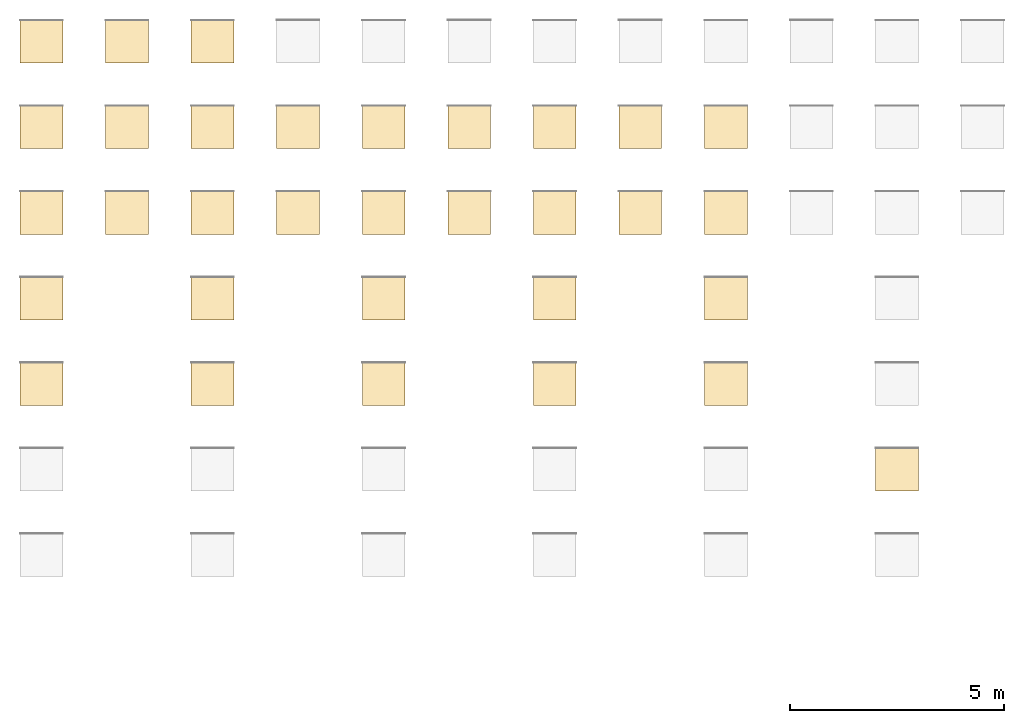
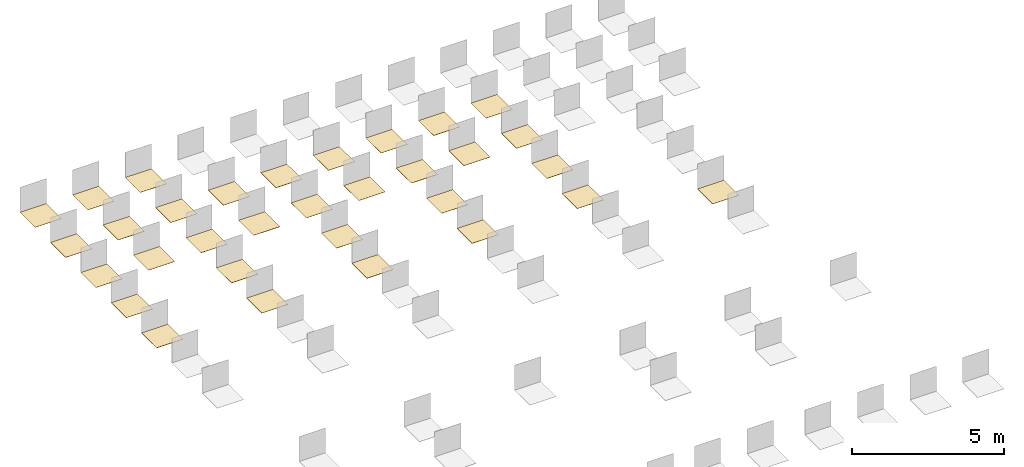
# One storey, part 5 of 6: 32 coverings.
"""IFC2X3 building model written with IfcOpenShell, lengths in millimetres."""

from ifc_helpers import new_model, entity, si_unit, converted_unit, derived_unit, direction, frame, frame_2d, origin, origin_2d_with_axis, place, context, subcontext, project, spatial, rectangle, extrude, material, layer, layer_set, layer_usage, type_object, element, save


model = new_model("IFC2X3")

# Units and contexts
model_context = context("Model", 3, precision=0.01, world=origin(), true_north=direction((6.12303176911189e-17, 1.0)))
body_context = subcontext(model_context, "Body", "Model", "MODEL_VIEW")
ifc_project = project(units=[si_unit("LENGTHUNIT", "METRE", prefix="MILLI"), si_unit("AREAUNIT", "SQUARE_METRE"), si_unit("VOLUMEUNIT", "CUBIC_METRE"), converted_unit("PLANEANGLEUNIT", "DEGREE", entity("IfcRatioMeasure", 0.0174532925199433), si_unit("PLANEANGLEUNIT", "RADIAN"), dimensions=[0, 0, 0, 0, 0, 0, 0]), si_unit("MASSUNIT", "GRAM", prefix="KILO"), derived_unit("MASSDENSITYUNIT", [(si_unit("MASSUNIT", "GRAM", prefix="KILO"), 1), (si_unit("LENGTHUNIT", "METRE"), -3)]), derived_unit("MOMENTOFINERTIAUNIT", [(si_unit("LENGTHUNIT", "METRE"), 4)]), si_unit("TIMEUNIT", "SECOND"), si_unit("FREQUENCYUNIT", "HERTZ"), si_unit("THERMODYNAMICTEMPERATUREUNIT", "DEGREE_CELSIUS"), derived_unit("THERMALTRANSMITTANCEUNIT", [(si_unit("MASSUNIT", "GRAM", prefix="KILO"), 1), (si_unit("THERMODYNAMICTEMPERATUREUNIT", "KELVIN"), -1), (si_unit("TIMEUNIT", "SECOND"), -3)]), derived_unit("VOLUMETRICFLOWRATEUNIT", [(si_unit("LENGTHUNIT", "METRE"), 3), (si_unit("TIMEUNIT", "SECOND"), -1)]), si_unit("ELECTRICCURRENTUNIT", "AMPERE"), si_unit("ELECTRICVOLTAGEUNIT", "VOLT"), si_unit("POWERUNIT", "WATT"), si_unit("FORCEUNIT", "NEWTON", prefix="KILO"), si_unit("ILLUMINANCEUNIT", "LUX"), si_unit("LUMINOUSFLUXUNIT", "LUMEN"), si_unit("LUMINOUSINTENSITYUNIT", "CANDELA"), derived_unit("USERDEFINED", [(si_unit("MASSUNIT", "GRAM", prefix="KILO"), -1), (si_unit("LENGTHUNIT", "METRE"), -2), (si_unit("TIMEUNIT", "SECOND"), 3), (si_unit("LUMINOUSFLUXUNIT", "LUMEN"), 1)]), derived_unit("LINEARVELOCITYUNIT", [(si_unit("LENGTHUNIT", "METRE"), 1), (si_unit("TIMEUNIT", "SECOND"), -1)]), si_unit("PRESSUREUNIT", "PASCAL"), derived_unit("USERDEFINED", [(si_unit("LENGTHUNIT", "METRE"), -2), (si_unit("MASSUNIT", "GRAM", prefix="KILO"), 1), (si_unit("TIMEUNIT", "SECOND"), -2)]), derived_unit("LINEARFORCEUNIT", [(si_unit("MASSUNIT", "GRAM", prefix="KILO"), 1), (si_unit("LENGTHUNIT", "METRE"), 1), (si_unit("TIMEUNIT", "SECOND"), -2), (si_unit("LENGTHUNIT", "METRE"), -1)]), derived_unit("PLANARFORCEUNIT", [(si_unit("MASSUNIT", "GRAM", prefix="KILO"), 1), (si_unit("LENGTHUNIT", "METRE"), 1), (si_unit("TIMEUNIT", "SECOND"), -2), (si_unit("LENGTHUNIT", "METRE"), -2)])], contexts=[model_context])

# Site, building, storey
site_placement = place(None, origin())
site = spatial("IfcSite", under=ifc_project, at=site_placement, Name="Default", CompositionType="ELEMENT")
building_placement = place(site_placement, origin())
building = spatial("IfcBuilding", under=site, at=building_placement, CompositionType="ELEMENT")
storey_placement = place(building_placement, origin())
storey = spatial("IfcBuildingStorey", under=building, at=storey_placement, Name="Level 1", CompositionType="ELEMENT", Elevation=0.0)

# Coverings
ifc_material_1 = material(Name="REVIGRÉS-URBAN-BASE-30X30-RECT-ANTRACITE")
ifc_layer_1 = layer(ifc_material_1, 7.7)
ifc_layer_set_1 = layer_set([ifc_layer_1], Name="Floor:REVIGRÉS-URBAN-BASE-29,5X29,5-RECT-ANTRACITE")
ifc_layer_usage_1 = layer_usage(ifc_layer_set_1, "AXIS3", "POSITIVE", 0.0)
covering_type_1 = type_object("IfcCoveringType", Name="Floor:REVIGRÉS-URBAN-BASE-29,5X29,5-RECT-ANTRACITE", PredefinedType="CLADDING", material=ifc_layer_set_1)
covering_1_placement = place(storey_placement, origin())
element("IfcCovering", 1, at=covering_1_placement, inside=storey, type_object=covering_type_1, material=ifc_layer_usage_1, Name="Floor:REVIGRÉS-URBAN-BASE-29,5X29,5-RECT-ANTRACITE", ObjectType="Floor:REVIGRÉS-URBAN-BASE-29,5X29,5-RECT-ANTRACITE", PredefinedType="CLADDING", context=body_context, shape_type="SweptSolid", body=[
    extrude(rectangle(XDim=1000.0, YDim=1000.0, at=frame_2d((-1.4210854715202e-13, 0.0), x_axis=(1.0, 0.0))), frame((3278.64271399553, -1691.92420263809, 0.0), z_axis=(0.0, 0.0, -1.0), x_axis=(0.0, 1.0, 0.0)), (0.0, 0.0, 1.0), 7.7),
])
ifc_material_2 = material(Name="REVIGRÉS-URBAN-BASE-30X30-NAT-ANTRACITE")
ifc_layer_2 = layer(ifc_material_2, 8.5)
ifc_layer_set_2 = layer_set([ifc_layer_2], Name="Floor:REVIGRÉS-URBAN-BASE-30X30-NAT-ANTRACITE")
ifc_layer_usage_2 = layer_usage(ifc_layer_set_2, "AXIS3", "POSITIVE", 0.0)
covering_type_2 = type_object("IfcCoveringType", Name="Floor:REVIGRÉS-URBAN-BASE-30X30-NAT-ANTRACITE", PredefinedType="CLADDING", material=ifc_layer_set_2)
covering_2_placement = place(storey_placement, origin())
element("IfcCovering", 2, at=covering_2_placement, inside=storey, type_object=covering_type_2, material=ifc_layer_usage_2, Name="Floor:REVIGRÉS-URBAN-BASE-30X30-NAT-ANTRACITE", ObjectType="Floor:REVIGRÉS-URBAN-BASE-30X30-NAT-ANTRACITE", PredefinedType="CLADDING", context=body_context, shape_type="SweptSolid", body=[
    extrude(rectangle(XDim=1000.0, YDim=1000.0, at=frame_2d((-1.4210854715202e-13, 5.40012479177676e-13), x_axis=(1.0, 0.0))), frame((5278.64271399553, -1691.9242026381, 0.0), z_axis=(0.0, 0.0, -1.0), x_axis=(0.0, 1.0, 0.0)), (0.0, 0.0, 1.0), 8.5),
])
ifc_material_3 = material(Name="REVIGRÉS-URBAN-BASE-30X30-RECT-BONE")
ifc_layer_3 = layer(ifc_material_3, 7.7)
ifc_layer_set_3 = layer_set([ifc_layer_3], Name="Floor:REVIGRÉS-URBAN-BASE-29,5X29,5-RECT-BONE")
ifc_layer_usage_3 = layer_usage(ifc_layer_set_3, "AXIS3", "POSITIVE", 0.0)
covering_type_3 = type_object("IfcCoveringType", Name="Floor:REVIGRÉS-URBAN-BASE-29,5X29,5-RECT-BONE", PredefinedType="CLADDING", material=ifc_layer_set_3)
covering_3_placement = place(storey_placement, origin())
element("IfcCovering", 3, at=covering_3_placement, inside=storey, type_object=covering_type_3, material=ifc_layer_usage_3, Name="Floor:REVIGRÉS-URBAN-BASE-29,5X29,5-RECT-BONE", ObjectType="Floor:REVIGRÉS-URBAN-BASE-29,5X29,5-RECT-BONE", PredefinedType="CLADDING", context=body_context, shape_type="SweptSolid", body=[
    extrude(rectangle(XDim=1000.0, YDim=1000.0, at=frame_2d((-1.4210854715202e-13, -1.08002495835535e-12), x_axis=(1.0, 0.0))), frame((7278.64271399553, -1691.92420263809, 0.0), z_axis=(0.0, 0.0, -1.0), x_axis=(0.0, 1.0, 0.0)), (0.0, 0.0, 1.0), 7.7),
])
ifc_material_4 = material(Name="REVIGRÉS-URBAN-BASE-30X60-RECT-ANTRACITE")
ifc_layer_4 = layer(ifc_material_4, 8.5)
ifc_layer_set_4 = layer_set([ifc_layer_4], Name="Floor:REVIGRÉS-URBAN-BASE-29,5X59,2-RECT-ANTRACITE")
ifc_layer_usage_4 = layer_usage(ifc_layer_set_4, "AXIS3", "POSITIVE", 0.0)
covering_type_4 = type_object("IfcCoveringType", Name="Floor:REVIGRÉS-URBAN-BASE-29,5X59,2-RECT-ANTRACITE", PredefinedType="CLADDING", material=ifc_layer_set_4)
covering_4_placement = place(storey_placement, origin())
element("IfcCovering", 4, at=covering_4_placement, inside=storey, type_object=covering_type_4, material=ifc_layer_usage_4, Name="Floor:REVIGRÉS-URBAN-BASE-29,5X59,2-RECT-ANTRACITE", ObjectType="Floor:REVIGRÉS-URBAN-BASE-29,5X59,2-RECT-ANTRACITE", PredefinedType="CLADDING", context=body_context, shape_type="SweptSolid", body=[
    extrude(rectangle(XDim=1000.0, YDim=1000.0, at=frame_2d((-2.8421709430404e-13, 0.0), x_axis=(1.0, 0.0))), frame((3278.64271399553, -3691.92420263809, 0.0), z_axis=(0.0, 0.0, -1.0), x_axis=(0.0, 1.0, 0.0)), (0.0, 0.0, 1.0), 8.5),
])
ifc_material_5 = material(Name="REVIGRÉS-URBAN-BASE-30X60-RECT-BONE")
ifc_layer_5 = layer(ifc_material_5, 8.5)
ifc_layer_set_5 = layer_set([ifc_layer_5], Name="Floor:REVIGRÉS-URBAN-BASE-29,5X59,2-RECT-BONE")
ifc_layer_usage_5 = layer_usage(ifc_layer_set_5, "AXIS3", "POSITIVE", 0.0)
covering_type_5 = type_object("IfcCoveringType", Name="Floor:REVIGRÉS-URBAN-BASE-29,5X59,2-RECT-BONE", PredefinedType="CLADDING", material=ifc_layer_set_5)
covering_5_placement = place(storey_placement, origin())
element("IfcCovering", 5, at=covering_5_placement, inside=storey, type_object=covering_type_5, material=ifc_layer_usage_5, Name="Floor:REVIGRÉS-URBAN-BASE-29,5X59,2-RECT-BONE", ObjectType="Floor:REVIGRÉS-URBAN-BASE-29,5X59,2-RECT-BONE", PredefinedType="CLADDING", context=body_context, shape_type="SweptSolid", body=[
    extrude(rectangle(XDim=1000.0, YDim=1000.0, at=frame_2d((-2.8421709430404e-13, 1.08002495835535e-12), x_axis=(1.0, 0.0))), frame((7278.64271399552, -3691.92420263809, 0.0), z_axis=(0.0, 0.0, -1.0), x_axis=(0.0, 1.0, 0.0)), (0.0, 0.0, 1.0), 8.5),
])
ifc_material_6 = material(Name="REVIGRÉS-URBAN-BASE-30X60-RECT-CRAFT")
ifc_layer_6 = layer(ifc_material_6, 8.5)
ifc_layer_set_6 = layer_set([ifc_layer_6], Name="Floor:REVIGRÉS-URBAN-BASE-29,5X59,2-RECT-CRAFT")
ifc_layer_usage_6 = layer_usage(ifc_layer_set_6, "AXIS3", "POSITIVE", 0.0)
covering_type_6 = type_object("IfcCoveringType", Name="Floor:REVIGRÉS-URBAN-BASE-29,5X59,2-RECT-CRAFT", PredefinedType="CLADDING", material=ifc_layer_set_6)
covering_6_placement = place(storey_placement, origin())
element("IfcCovering", 6, at=covering_6_placement, inside=storey, type_object=covering_type_6, material=ifc_layer_usage_6, Name="Floor:REVIGRÉS-URBAN-BASE-29,5X59,2-RECT-CRAFT", ObjectType="Floor:REVIGRÉS-URBAN-BASE-29,5X59,2-RECT-CRAFT", PredefinedType="CLADDING", context=body_context, shape_type="SweptSolid", body=[
    extrude(rectangle(XDim=1000.0, YDim=999.999999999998, at=frame_2d((-2.8421709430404e-13, 0.0), x_axis=(1.0, 0.0))), frame((11278.6427139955, -3691.92420263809, 0.0), z_axis=(0.0, 0.0, -1.0), x_axis=(0.0, 1.0, 0.0)), (0.0, 0.0, 1.0), 8.5),
])
ifc_material_7 = material(Name="REVIGRÉS-URBAN-BASE-30X60-RECT-FOG")
ifc_layer_7 = layer(ifc_material_7, 8.5)
ifc_layer_set_7 = layer_set([ifc_layer_7], Name="Floor:REVIGRÉS-URBAN-BASE-29,5X59,2-RECT-FOG")
ifc_layer_usage_7 = layer_usage(ifc_layer_set_7, "AXIS3", "POSITIVE", 0.0)
covering_type_7 = type_object("IfcCoveringType", Name="Floor:REVIGRÉS-URBAN-BASE-29,5X59,2-RECT-FOG", PredefinedType="CLADDING", material=ifc_layer_set_7)
covering_7_placement = place(storey_placement, origin())
element("IfcCovering", 7, at=covering_7_placement, inside=storey, type_object=covering_type_7, material=ifc_layer_usage_7, Name="Floor:REVIGRÉS-URBAN-BASE-29,5X59,2-RECT-FOG", ObjectType="Floor:REVIGRÉS-URBAN-BASE-29,5X59,2-RECT-FOG", PredefinedType="CLADDING", context=body_context, shape_type="SweptSolid", body=[
    extrude(rectangle(XDim=1000.0, YDim=1000.0, at=frame_2d((-2.8421709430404e-13, -1.08002495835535e-12), x_axis=(1.0, 0.0))), frame((15278.6427139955, -3691.92420263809, 0.0), z_axis=(0.0, 0.0, -1.0), x_axis=(0.0, 1.0, 0.0)), (0.0, 0.0, 1.0), 8.5),
])
ifc_material_8 = material(Name="REVIGRÉS-URBAN-BASE-30X60-RECT-GRIS")
ifc_layer_8 = layer(ifc_material_8, 8.5)
ifc_layer_set_8 = layer_set([ifc_layer_8], Name="Floor:REVIGRÉS-URBAN-BASE-29,5X59,2-RECT-GRIS")
ifc_layer_usage_8 = layer_usage(ifc_layer_set_8, "AXIS3", "POSITIVE", 0.0)
covering_type_8 = type_object("IfcCoveringType", Name="Floor:REVIGRÉS-URBAN-BASE-29,5X59,2-RECT-GRIS", PredefinedType="CLADDING", material=ifc_layer_set_8)
covering_8_placement = place(storey_placement, origin())
element("IfcCovering", 8, at=covering_8_placement, inside=storey, type_object=covering_type_8, material=ifc_layer_usage_8, Name="Floor:REVIGRÉS-URBAN-BASE-29,5X59,2-RECT-GRIS", ObjectType="Floor:REVIGRÉS-URBAN-BASE-29,5X59,2-RECT-GRIS", PredefinedType="CLADDING", context=body_context, shape_type="SweptSolid", body=[
    extrude(rectangle(XDim=1000.0, YDim=1000.0, at=frame_2d((-2.8421709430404e-13, 1.08002495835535e-12), x_axis=(1.0, 0.0))), frame((19278.6427139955, -3691.92420263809, 0.0), z_axis=(0.0, 0.0, -1.0), x_axis=(0.0, 1.0, 0.0)), (0.0, 0.0, 1.0), 8.5),
])
ifc_material_9 = material(Name="REVIGRÉS-URBAN-BASE-45X45-RECT-ANTRACITE")
ifc_layer_9 = layer(ifc_material_9, 8.5)
ifc_layer_set_9 = layer_set([ifc_layer_9], Name="Floor:REVIGRÉS-URBAN-BASE-44,35X44,35-RECT-ANTRACITE")
ifc_layer_usage_9 = layer_usage(ifc_layer_set_9, "AXIS3", "POSITIVE", 0.0)
covering_type_9 = type_object("IfcCoveringType", Name="Floor:REVIGRÉS-URBAN-BASE-44,35X44,35-RECT-ANTRACITE", PredefinedType="CLADDING", material=ifc_layer_set_9)
covering_9_placement = place(storey_placement, origin())
element("IfcCovering", 9, at=covering_9_placement, inside=storey, type_object=covering_type_9, material=ifc_layer_usage_9, Name="Floor:REVIGRÉS-URBAN-BASE-44,35X44,35-RECT-ANTRACITE", ObjectType="Floor:REVIGRÉS-URBAN-BASE-44,35X44,35-RECT-ANTRACITE", PredefinedType="CLADDING", context=body_context, shape_type="SweptSolid", body=[
    extrude(rectangle(XDim=1000.0, YDim=1000.0, at=frame_2d((-5.40012479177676e-13, 0.0), x_axis=(1.0, 0.0))), frame((3278.64271399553, -5691.92420263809, 0.0), z_axis=(0.0, 0.0, -1.0), x_axis=(0.0, 1.0, 0.0)), (0.0, 0.0, 1.0), 8.5),
])
ifc_material_10 = material(Name="REVIGRÉS-URBAN-BASE-45X45-NAT-ANTRACITE")
ifc_layer_10 = layer(ifc_material_10, 8.5)
ifc_layer_set_10 = layer_set([ifc_layer_10], Name="Floor:REVIGRÉS-URBAN-BASE-45X45-NAT-ANTRACITE")
ifc_layer_usage_10 = layer_usage(ifc_layer_set_10, "AXIS3", "POSITIVE", 0.0)
covering_type_10 = type_object("IfcCoveringType", Name="Floor:REVIGRÉS-URBAN-BASE-45X45-NAT-ANTRACITE", PredefinedType="CLADDING", material=ifc_layer_set_10)
covering_10_placement = place(storey_placement, origin())
element("IfcCovering", 10, at=covering_10_placement, inside=storey, type_object=covering_type_10, material=ifc_layer_usage_10, Name="Floor:REVIGRÉS-URBAN-BASE-45X45-NAT-ANTRACITE", ObjectType="Floor:REVIGRÉS-URBAN-BASE-45X45-NAT-ANTRACITE", PredefinedType="CLADDING", context=body_context, shape_type="SweptSolid", body=[
    extrude(rectangle(XDim=1000.0, YDim=1000.0, at=frame_2d((0.0, 5.40012479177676e-13), x_axis=(1.0, 0.0))), frame((5278.64271399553, -5691.9242026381, 0.0), z_axis=(0.0, 0.0, -1.0), x_axis=(0.0, 1.0, 0.0)), (0.0, 0.0, 1.0), 8.5),
])
ifc_material_11 = material(Name="REVIGRÉS-URBAN-BASE-45X45-RECT-BONE")
ifc_layer_11 = layer(ifc_material_11, 8.5)
ifc_layer_set_11 = layer_set([ifc_layer_11], Name="Floor:REVIGRÉS-URBAN-BASE-44,35X44,35-RECT-BONE")
ifc_layer_usage_11 = layer_usage(ifc_layer_set_11, "AXIS3", "POSITIVE", 0.0)
covering_type_11 = type_object("IfcCoveringType", Name="Floor:REVIGRÉS-URBAN-BASE-44,35X44,35-RECT-BONE", PredefinedType="CLADDING", material=ifc_layer_set_11)
covering_11_placement = place(storey_placement, origin())
element("IfcCovering", 11, at=covering_11_placement, inside=storey, type_object=covering_type_11, material=ifc_layer_usage_11, Name="Floor:REVIGRÉS-URBAN-BASE-44,35X44,35-RECT-BONE", ObjectType="Floor:REVIGRÉS-URBAN-BASE-44,35X44,35-RECT-BONE", PredefinedType="CLADDING", context=body_context, shape_type="SweptSolid", body=[
    extrude(rectangle(XDim=999.999999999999, YDim=1000.0, at=frame_2d((5.40012479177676e-13, -1.08002495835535e-12), x_axis=(1.0, 0.0))), frame((7278.64271399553, -5691.92420263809, 0.0), z_axis=(0.0, 0.0, -1.0), x_axis=(0.0, 1.0, 0.0)), (0.0, 0.0, 1.0), 8.5),
])
ifc_material_12 = material(Name="REVIGRÉS-URBAN-BASE-45X45-NAT-BONE")
ifc_layer_12 = layer(ifc_material_12, 8.5)
ifc_layer_set_12 = layer_set([ifc_layer_12], Name="Floor:REVIGRÉS-URBAN-BASE-45X45-NAT-BONE")
ifc_layer_usage_12 = layer_usage(ifc_layer_set_12, "AXIS3", "POSITIVE", 0.0)
covering_type_12 = type_object("IfcCoveringType", Name="Floor:REVIGRÉS-URBAN-BASE-45X45-NAT-BONE", PredefinedType="CLADDING", material=ifc_layer_set_12)
covering_12_placement = place(storey_placement, origin())
element("IfcCovering", 12, at=covering_12_placement, inside=storey, type_object=covering_type_12, material=ifc_layer_usage_12, Name="Floor:REVIGRÉS-URBAN-BASE-45X45-NAT-BONE", ObjectType="Floor:REVIGRÉS-URBAN-BASE-45X45-NAT-BONE", PredefinedType="CLADDING", context=body_context, shape_type="SweptSolid", body=[
    extrude(rectangle(XDim=999.999999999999, YDim=1000.0, at=frame_2d((5.40012479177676e-13, 1.08002495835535e-12), x_axis=(1.0, 0.0))), frame((9278.64271399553, -5691.92420263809, 0.0), z_axis=(0.0, 0.0, -1.0), x_axis=(0.0, 1.0, 0.0)), (0.0, 0.0, 1.0), 8.5),
])
ifc_material_13 = material(Name="REVIGRÉS-URBAN-BASE-45X45-RECT-CRAFT")
ifc_layer_13 = layer(ifc_material_13, 8.5)
ifc_layer_set_13 = layer_set([ifc_layer_13], Name="Floor:REVIGRÉS-URBAN-BASE-44,35X44,35-RECT-CRAFT")
ifc_layer_usage_13 = layer_usage(ifc_layer_set_13, "AXIS3", "POSITIVE", 0.0)
covering_type_13 = type_object("IfcCoveringType", Name="Floor:REVIGRÉS-URBAN-BASE-44,35X44,35-RECT-CRAFT", PredefinedType="CLADDING", material=ifc_layer_set_13)
covering_13_placement = place(storey_placement, origin())
element("IfcCovering", 13, at=covering_13_placement, inside=storey, type_object=covering_type_13, material=ifc_layer_usage_13, Name="Floor:REVIGRÉS-URBAN-BASE-44,35X44,35-RECT-CRAFT", ObjectType="Floor:REVIGRÉS-URBAN-BASE-44,35X44,35-RECT-CRAFT", PredefinedType="CLADDING", context=body_context, shape_type="SweptSolid", body=[
    extrude(rectangle(XDim=999.999999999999, YDim=999.999999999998, at=frame_2d((5.40012479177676e-13, 0.0), x_axis=(1.0, 0.0))), frame((11278.6427139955, -5691.92420263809, 0.0), z_axis=(0.0, 0.0, -1.0), x_axis=(0.0, 1.0, 0.0)), (0.0, 0.0, 1.0), 8.5),
])
ifc_material_14 = material(Name="REVIGRÉS-URBAN-BASE-45X45-NAT-CRAFT")
ifc_layer_14 = layer(ifc_material_14, 8.5)
ifc_layer_set_14 = layer_set([ifc_layer_14], Name="Floor:REVIGRÉS-URBAN-BASE-45X45-NAT-CRAFT")
ifc_layer_usage_14 = layer_usage(ifc_layer_set_14, "AXIS3", "POSITIVE", 0.0)
covering_type_14 = type_object("IfcCoveringType", Name="Floor:REVIGRÉS-URBAN-BASE-45X45-NAT-CRAFT", PredefinedType="CLADDING", material=ifc_layer_set_14)
covering_14_placement = place(storey_placement, origin())
element("IfcCovering", 14, at=covering_14_placement, inside=storey, type_object=covering_type_14, material=ifc_layer_usage_14, Name="Floor:REVIGRÉS-URBAN-BASE-45X45-NAT-CRAFT", ObjectType="Floor:REVIGRÉS-URBAN-BASE-45X45-NAT-CRAFT", PredefinedType="CLADDING", context=body_context, shape_type="SweptSolid", body=[
    extrude(rectangle(XDim=999.999999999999, YDim=1000.0, at=frame_2d((5.40012479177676e-13, -1.08002495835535e-12), x_axis=(1.0, 0.0))), frame((13278.6427139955, -5691.92420263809, 0.0), z_axis=(0.0, 0.0, -1.0), x_axis=(0.0, 1.0, 0.0)), (0.0, 0.0, 1.0), 8.5),
])
ifc_material_15 = material(Name="REVIGRÉS-URBAN-BASE-45X45-RECT-FOG")
ifc_layer_15 = layer(ifc_material_15, 8.5)
ifc_layer_set_15 = layer_set([ifc_layer_15], Name="Floor:REVIGRÉS-URBAN-BASE-44,35X44,35-RECT-FOG")
ifc_layer_usage_15 = layer_usage(ifc_layer_set_15, "AXIS3", "POSITIVE", 0.0)
covering_type_15 = type_object("IfcCoveringType", Name="Floor:REVIGRÉS-URBAN-BASE-44,35X44,35-RECT-FOG", PredefinedType="CLADDING", material=ifc_layer_set_15)
covering_15_placement = place(storey_placement, origin())
element("IfcCovering", 15, at=covering_15_placement, inside=storey, type_object=covering_type_15, material=ifc_layer_usage_15, Name="Floor:REVIGRÉS-URBAN-BASE-44,35X44,35-RECT-FOG", ObjectType="Floor:REVIGRÉS-URBAN-BASE-44,35X44,35-RECT-FOG", PredefinedType="CLADDING", context=body_context, shape_type="SweptSolid", body=[
    extrude(rectangle(XDim=999.999999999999, YDim=1000.0, at=frame_2d((5.40012479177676e-13, -1.08002495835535e-12), x_axis=(1.0, 0.0))), frame((15278.6427139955, -5691.92420263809, 0.0), z_axis=(0.0, 0.0, -1.0), x_axis=(0.0, 1.0, 0.0)), (0.0, 0.0, 1.0), 8.5),
])
ifc_material_16 = material(Name="REVIGRÉS-URBAN-BASE-45X45-NAT-FOG")
ifc_layer_16 = layer(ifc_material_16, 8.5)
ifc_layer_set_16 = layer_set([ifc_layer_16], Name="Floor:REVIGRÉS-URBAN-BASE-45X45-NAT-FOG")
ifc_layer_usage_16 = layer_usage(ifc_layer_set_16, "AXIS3", "POSITIVE", 0.0)
covering_type_16 = type_object("IfcCoveringType", Name="Floor:REVIGRÉS-URBAN-BASE-45X45-NAT-FOG", PredefinedType="CLADDING", material=ifc_layer_set_16)
covering_16_placement = place(storey_placement, origin())
element("IfcCovering", 16, at=covering_16_placement, inside=storey, type_object=covering_type_16, material=ifc_layer_usage_16, Name="Floor:REVIGRÉS-URBAN-BASE-45X45-NAT-FOG", ObjectType="Floor:REVIGRÉS-URBAN-BASE-45X45-NAT-FOG", PredefinedType="CLADDING", context=body_context, shape_type="SweptSolid", body=[
    extrude(rectangle(XDim=999.999999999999, YDim=1000.0, at=frame_2d((5.40012479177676e-13, 1.08002495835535e-12), x_axis=(1.0, 0.0))), frame((17278.6427139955, -5691.92420263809, 0.0), z_axis=(0.0, 0.0, -1.0), x_axis=(0.0, 1.0, 0.0)), (0.0, 0.0, 1.0), 8.5),
])
ifc_material_17 = material(Name="REVIGRÉS-URBAN-BASE-45X45-RECT-GRIS")
ifc_layer_17 = layer(ifc_material_17, 8.5)
ifc_layer_set_17 = layer_set([ifc_layer_17], Name="Floor:REVIGRÉS-URBAN-BASE-44,35X44,35-RECT-GRIS")
ifc_layer_usage_17 = layer_usage(ifc_layer_set_17, "AXIS3", "POSITIVE", 0.0)
covering_type_17 = type_object("IfcCoveringType", Name="Floor:REVIGRÉS-URBAN-BASE-44,35X44,35-RECT-GRIS", PredefinedType="CLADDING", material=ifc_layer_set_17)
covering_17_placement = place(storey_placement, origin())
element("IfcCovering", 17, at=covering_17_placement, inside=storey, type_object=covering_type_17, material=ifc_layer_usage_17, Name="Floor:REVIGRÉS-URBAN-BASE-44,35X44,35-RECT-GRIS", ObjectType="Floor:REVIGRÉS-URBAN-BASE-44,35X44,35-RECT-GRIS", PredefinedType="CLADDING", context=body_context, shape_type="SweptSolid", body=[
    extrude(rectangle(XDim=999.999999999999, YDim=1000.0, at=frame_2d((5.40012479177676e-13, -1.08002495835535e-12), x_axis=(1.0, 0.0))), frame((19278.6427139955, -5691.92420263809, 0.0), z_axis=(0.0, 0.0, -1.0), x_axis=(0.0, 1.0, 0.0)), (0.0, 0.0, 1.0), 8.5),
])
ifc_material_18 = material(Name="REVIGRÉS-URBAN-BASE-45X90-RECT-ANTRACITE")
ifc_layer_18 = layer(ifc_material_18, 10.5)
ifc_layer_set_18 = layer_set([ifc_layer_18], Name="Floor:REVIGRÉS-URBAN-BASE-44,35X88,9-RECT-ANTRACITE")
ifc_layer_usage_18 = layer_usage(ifc_layer_set_18, "AXIS3", "POSITIVE", 0.0)
covering_type_18 = type_object("IfcCoveringType", Name="Floor:REVIGRÉS-URBAN-BASE-44,35X88,9-RECT-ANTRACITE", PredefinedType="CLADDING", material=ifc_layer_set_18)
covering_18_placement = place(storey_placement, origin())
element("IfcCovering", 18, at=covering_18_placement, inside=storey, type_object=covering_type_18, material=ifc_layer_usage_18, Name="Floor:REVIGRÉS-URBAN-BASE-44,35X88,9-RECT-ANTRACITE", ObjectType="Floor:REVIGRÉS-URBAN-BASE-44,35X88,9-RECT-ANTRACITE", PredefinedType="CLADDING", context=body_context, shape_type="SweptSolid", body=[
    extrude(rectangle(XDim=1000.0, YDim=1000.0, at=frame_2d((1.08002495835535e-12, 0.0), x_axis=(1.0, 0.0))), frame((3278.64271399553, -7691.92420263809, 0.0), z_axis=(0.0, 0.0, -1.0), x_axis=(0.0, 1.0, 0.0)), (0.0, 0.0, 1.0), 10.5),
])
ifc_material_19 = material(Name="REVIGRÉS-URBAN-BASE-45X90-RECT-BONE")
ifc_layer_19 = layer(ifc_material_19, 10.5)
ifc_layer_set_19 = layer_set([ifc_layer_19], Name="Floor:REVIGRÉS-URBAN-BASE-44,35X88,9-RECT-BONE")
ifc_layer_usage_19 = layer_usage(ifc_layer_set_19, "AXIS3", "POSITIVE", 0.0)
covering_type_19 = type_object("IfcCoveringType", Name="Floor:REVIGRÉS-URBAN-BASE-44,35X88,9-RECT-BONE", PredefinedType="CLADDING", material=ifc_layer_set_19)
covering_19_placement = place(storey_placement, origin())
element("IfcCovering", 19, at=covering_19_placement, inside=storey, type_object=covering_type_19, material=ifc_layer_usage_19, Name="Floor:REVIGRÉS-URBAN-BASE-44,35X88,9-RECT-BONE", ObjectType="Floor:REVIGRÉS-URBAN-BASE-44,35X88,9-RECT-BONE", PredefinedType="CLADDING", context=body_context, shape_type="SweptSolid", body=[
    extrude(rectangle(XDim=1000.0, YDim=1000.0, at=frame_2d((1.08002495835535e-12, -1.08002495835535e-12), x_axis=(1.0, 0.0))), frame((7278.64271399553, -7691.92420263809, 0.0), z_axis=(0.0, 0.0, -1.0), x_axis=(0.0, 1.0, 0.0)), (0.0, 0.0, 1.0), 10.5),
])
ifc_material_20 = material(Name="REVIGRÉS-URBAN-BASE-45X90-RECT-CRAFT")
ifc_layer_20 = layer(ifc_material_20, 10.5)
ifc_layer_set_20 = layer_set([ifc_layer_20], Name="Floor:REVIGRÉS-URBAN-BASE-44,35X88,9-RECT-CRAFT")
ifc_layer_usage_20 = layer_usage(ifc_layer_set_20, "AXIS3", "POSITIVE", 0.0)
covering_type_20 = type_object("IfcCoveringType", Name="Floor:REVIGRÉS-URBAN-BASE-44,35X88,9-RECT-CRAFT", PredefinedType="CLADDING", material=ifc_layer_set_20)
covering_20_placement = place(storey_placement, origin())
element("IfcCovering", 20, at=covering_20_placement, inside=storey, type_object=covering_type_20, material=ifc_layer_usage_20, Name="Floor:REVIGRÉS-URBAN-BASE-44,35X88,9-RECT-CRAFT", ObjectType="Floor:REVIGRÉS-URBAN-BASE-44,35X88,9-RECT-CRAFT", PredefinedType="CLADDING", context=body_context, shape_type="SweptSolid", body=[
    extrude(rectangle(XDim=1000.0, YDim=999.999999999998, at=frame_2d((1.08002495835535e-12, 0.0), x_axis=(1.0, 0.0))), frame((11278.6427139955, -7691.92420263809, 0.0), z_axis=(0.0, 0.0, -1.0), x_axis=(0.0, 1.0, 0.0)), (0.0, 0.0, 1.0), 10.5),
])
ifc_material_21 = material(Name="REVIGRÉS-URBAN-BASE-45X90-RECT-FOG")
ifc_layer_21 = layer(ifc_material_21, 10.5)
ifc_layer_set_21 = layer_set([ifc_layer_21], Name="Floor:REVIGRÉS-URBAN-BASE-44,35X88,9-RECT-FOG")
ifc_layer_usage_21 = layer_usage(ifc_layer_set_21, "AXIS3", "POSITIVE", 0.0)
covering_type_21 = type_object("IfcCoveringType", Name="Floor:REVIGRÉS-URBAN-BASE-44,35X88,9-RECT-FOG", PredefinedType="CLADDING", material=ifc_layer_set_21)
covering_21_placement = place(storey_placement, origin())
element("IfcCovering", 21, at=covering_21_placement, inside=storey, type_object=covering_type_21, material=ifc_layer_usage_21, Name="Floor:REVIGRÉS-URBAN-BASE-44,35X88,9-RECT-FOG", ObjectType="Floor:REVIGRÉS-URBAN-BASE-44,35X88,9-RECT-FOG", PredefinedType="CLADDING", context=body_context, shape_type="SweptSolid", body=[
    extrude(rectangle(XDim=1000.0, YDim=1000.0, at=frame_2d((1.08002495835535e-12, -1.08002495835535e-12), x_axis=(1.0, 0.0))), frame((15278.6427139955, -7691.92420263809, 0.0), z_axis=(0.0, 0.0, -1.0), x_axis=(0.0, 1.0, 0.0)), (0.0, 0.0, 1.0), 10.5),
])
ifc_material_22 = material(Name="REVIGRÉS-URBAN-BASE-45X90-RECT-GRIS")
ifc_layer_22 = layer(ifc_material_22, 10.5)
ifc_layer_set_22 = layer_set([ifc_layer_22], Name="Floor:REVIGRÉS-URBAN-BASE-44,35X88,9-RECT-GRIS")
ifc_layer_usage_22 = layer_usage(ifc_layer_set_22, "AXIS3", "POSITIVE", 0.0)
covering_type_22 = type_object("IfcCoveringType", Name="Floor:REVIGRÉS-URBAN-BASE-44,35X88,9-RECT-GRIS", PredefinedType="CLADDING", material=ifc_layer_set_22)
covering_22_placement = place(storey_placement, origin())
element("IfcCovering", 22, at=covering_22_placement, inside=storey, type_object=covering_type_22, material=ifc_layer_usage_22, Name="Floor:REVIGRÉS-URBAN-BASE-44,35X88,9-RECT-GRIS", ObjectType="Floor:REVIGRÉS-URBAN-BASE-44,35X88,9-RECT-GRIS", PredefinedType="CLADDING", context=body_context, shape_type="SweptSolid", body=[
    extrude(rectangle(XDim=1000.0, YDim=1000.0, at=frame_2d((1.08002495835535e-12, -1.08002495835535e-12), x_axis=(1.0, 0.0))), frame((19278.6427139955, -7691.92420263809, 0.0), z_axis=(0.0, 0.0, -1.0), x_axis=(0.0, 1.0, 0.0)), (0.0, 0.0, 1.0), 10.5),
])
ifc_material_23 = material(Name="REVIGRÉS-URBAN-BASE-60X60-RECT-ANTRACITE")
ifc_layer_23 = layer(ifc_material_23, 10.5)
ifc_layer_set_23 = layer_set([ifc_layer_23], Name="Floor:REVIGRÉS-URBAN-BASE-59,2X59,2-RECT-ANTRACITE")
ifc_layer_usage_23 = layer_usage(ifc_layer_set_23, "AXIS3", "POSITIVE", 0.0)
covering_type_23 = type_object("IfcCoveringType", Name="Floor:REVIGRÉS-URBAN-BASE-59,2X59,2-RECT-ANTRACITE", PredefinedType="CLADDING", material=ifc_layer_set_23)
covering_23_placement = place(storey_placement, origin())
element("IfcCovering", 23, at=covering_23_placement, inside=storey, type_object=covering_type_23, material=ifc_layer_usage_23, Name="Floor:REVIGRÉS-URBAN-BASE-59,2X59,2-RECT-ANTRACITE", ObjectType="Floor:REVIGRÉS-URBAN-BASE-59,2X59,2-RECT-ANTRACITE", PredefinedType="CLADDING", context=body_context, shape_type="SweptSolid", body=[
    extrude(rectangle(XDim=1000.0, YDim=1000.0, at=frame_2d((-1.08002495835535e-12, 0.0), x_axis=(1.0, 0.0))), frame((3278.64271399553, -9691.92420263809, 0.0), z_axis=(0.0, 0.0, -1.0), x_axis=(0.0, 1.0, 0.0)), (0.0, 0.0, 1.0), 10.5),
])
ifc_material_24 = material(Name="REVIGRÉS-URBAN-BASE-60X60-RECT-BONE")
ifc_layer_24 = layer(ifc_material_24, 10.5)
ifc_layer_set_24 = layer_set([ifc_layer_24], Name="Floor:REVIGRÉS-URBAN-BASE-59,2X59,2-RECT-BONE")
ifc_layer_usage_24 = layer_usage(ifc_layer_set_24, "AXIS3", "POSITIVE", 0.0)
covering_type_24 = type_object("IfcCoveringType", Name="Floor:REVIGRÉS-URBAN-BASE-59,2X59,2-RECT-BONE", PredefinedType="CLADDING", material=ifc_layer_set_24)
covering_24_placement = place(storey_placement, origin())
element("IfcCovering", 24, at=covering_24_placement, inside=storey, type_object=covering_type_24, material=ifc_layer_usage_24, Name="Floor:REVIGRÉS-URBAN-BASE-59,2X59,2-RECT-BONE", ObjectType="Floor:REVIGRÉS-URBAN-BASE-59,2X59,2-RECT-BONE", PredefinedType="CLADDING", context=body_context, shape_type="SweptSolid", body=[
    extrude(rectangle(XDim=1000.0, YDim=1000.0, at=frame_2d((-1.08002495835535e-12, -1.08002495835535e-12), x_axis=(1.0, 0.0))), frame((7278.64271399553, -9691.92420263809, 0.0), z_axis=(0.0, 0.0, -1.0), x_axis=(0.0, 1.0, 0.0)), (0.0, 0.0, 1.0), 10.5),
])
ifc_material_25 = material(Name="REVIGRÉS-URBAN-BASE-60X60-RECT-CRAFT")
ifc_layer_25 = layer(ifc_material_25, 10.5)
ifc_layer_set_25 = layer_set([ifc_layer_25], Name="Floor:REVIGRÉS-URBAN-BASE-59,2X59,2-RECT-CRAFT")
ifc_layer_usage_25 = layer_usage(ifc_layer_set_25, "AXIS3", "POSITIVE", 0.0)
covering_type_25 = type_object("IfcCoveringType", Name="Floor:REVIGRÉS-URBAN-BASE-59,2X59,2-RECT-CRAFT", PredefinedType="CLADDING", material=ifc_layer_set_25)
covering_25_placement = place(storey_placement, origin())
element("IfcCovering", 25, at=covering_25_placement, inside=storey, type_object=covering_type_25, material=ifc_layer_usage_25, Name="Floor:REVIGRÉS-URBAN-BASE-59,2X59,2-RECT-CRAFT", ObjectType="Floor:REVIGRÉS-URBAN-BASE-59,2X59,2-RECT-CRAFT", PredefinedType="CLADDING", context=body_context, shape_type="SweptSolid", body=[
    extrude(rectangle(XDim=1000.0, YDim=999.999999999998, at=frame_2d((-1.08002495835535e-12, 0.0), x_axis=(1.0, 0.0))), frame((11278.6427139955, -9691.92420263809, 0.0), z_axis=(0.0, 0.0, -1.0), x_axis=(0.0, 1.0, 0.0)), (0.0, 0.0, 1.0), 10.5),
])
ifc_material_26 = material(Name="REVIGRÉS-URBAN-BASE-60X60-RECT-FOG")
ifc_layer_26 = layer(ifc_material_26, 10.5)
ifc_layer_set_26 = layer_set([ifc_layer_26], Name="Floor:REVIGRÉS-URBAN-BASE-59,2X59,2-RECT-FOG")
ifc_layer_usage_26 = layer_usage(ifc_layer_set_26, "AXIS3", "POSITIVE", 0.0)
covering_type_26 = type_object("IfcCoveringType", Name="Floor:REVIGRÉS-URBAN-BASE-59,2X59,2-RECT-FOG", PredefinedType="CLADDING", material=ifc_layer_set_26)
covering_26_placement = place(storey_placement, origin())
element("IfcCovering", 26, at=covering_26_placement, inside=storey, type_object=covering_type_26, material=ifc_layer_usage_26, Name="Floor:REVIGRÉS-URBAN-BASE-59,2X59,2-RECT-FOG", ObjectType="Floor:REVIGRÉS-URBAN-BASE-59,2X59,2-RECT-FOG", PredefinedType="CLADDING", context=body_context, shape_type="SweptSolid", body=[
    extrude(rectangle(XDim=1000.0, YDim=1000.0, at=frame_2d((-1.08002495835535e-12, -1.08002495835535e-12), x_axis=(1.0, 0.0))), frame((15278.6427139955, -9691.92420263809, 0.0), z_axis=(0.0, 0.0, -1.0), x_axis=(0.0, 1.0, 0.0)), (0.0, 0.0, 1.0), 10.5),
])
ifc_material_27 = material(Name="REVIGRÉS-URBAN-BASE-60X60-RECT-GRIS")
ifc_layer_27 = layer(ifc_material_27, 10.5)
ifc_layer_set_27 = layer_set([ifc_layer_27], Name="Floor:REVIGRÉS-URBAN-BASE-59,2X59,2-RECT-GRIS")
ifc_layer_usage_27 = layer_usage(ifc_layer_set_27, "AXIS3", "POSITIVE", 0.0)
covering_type_27 = type_object("IfcCoveringType", Name="Floor:REVIGRÉS-URBAN-BASE-59,2X59,2-RECT-GRIS", PredefinedType="CLADDING", material=ifc_layer_set_27)
covering_27_placement = place(storey_placement, origin())
element("IfcCovering", 27, at=covering_27_placement, inside=storey, type_object=covering_type_27, material=ifc_layer_usage_27, Name="Floor:REVIGRÉS-URBAN-BASE-59,2X59,2-RECT-GRIS", ObjectType="Floor:REVIGRÉS-URBAN-BASE-59,2X59,2-RECT-GRIS", PredefinedType="CLADDING", context=body_context, shape_type="SweptSolid", body=[
    extrude(rectangle(XDim=1000.0, YDim=1000.0, at=frame_2d((-1.08002495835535e-12, -1.08002495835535e-12), x_axis=(1.0, 0.0))), frame((19278.6427139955, -9691.92420263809, 0.0), z_axis=(0.0, 0.0, -1.0), x_axis=(0.0, 1.0, 0.0)), (0.0, 0.0, 1.0), 10.5),
])
ifc_material_28 = material(Name="REVIGRÉS-URBAN-BASE-60X120-RECT-OFFWHITE")
ifc_layer_28 = layer(ifc_material_28, 9.8)
ifc_layer_set_28 = layer_set([ifc_layer_28], Name="Floor:REVIGRÉS-URBAN-BASE-59,2X118,6-RECT-OFFWHITE")
ifc_layer_usage_28 = layer_usage(ifc_layer_set_28, "AXIS3", "POSITIVE", 0.0)
covering_type_28 = type_object("IfcCoveringType", Name="Floor:REVIGRÉS-URBAN-BASE-59,2X118,6-RECT-OFFWHITE", PredefinedType="CLADDING", material=ifc_layer_set_28)
covering_28_placement = place(storey_placement, origin())
element("IfcCovering", 28, at=covering_28_placement, inside=storey, type_object=covering_type_28, material=ifc_layer_usage_28, Name="Floor:REVIGRÉS-URBAN-BASE-59,2X118,6-RECT-OFFWHITE", ObjectType="Floor:REVIGRÉS-URBAN-BASE-59,2X118,6-RECT-OFFWHITE", PredefinedType="CLADDING", context=body_context, shape_type="SweptSolid", body=[
    extrude(rectangle(XDim=1000.0, YDim=1000.0, at=frame_2d((1.08002495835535e-12, 2.1600499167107e-12), x_axis=(1.0, 0.0))), frame((23278.6427139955, -11691.9242026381, 0.0), z_axis=(0.0, 0.0, -1.0), x_axis=(0.0, 1.0, 0.0)), (0.0, 0.0, 1.0), 9.8),
])
ifc_material_29 = material(Name="REVIGRÉS-URBAN-BASE-30X60-NAT-ANTRACITE")
ifc_layer_29 = layer(ifc_material_29, 8.5)
ifc_layer_set_29 = layer_set([ifc_layer_29], Name="Floor:REVIGRÉS-URBAN-BASE-30X60-NAT-ANTRACITE")
ifc_layer_usage_29 = layer_usage(ifc_layer_set_29, "AXIS3", "POSITIVE", 0.0)
covering_type_29 = type_object("IfcCoveringType", Name="Floor:REVIGRÉS-URBAN-BASE-30X60-NAT-ANTRACITE", PredefinedType="CLADDING", material=ifc_layer_set_29)
covering_29_placement = place(storey_placement, origin())
element("IfcCovering", 29, at=covering_29_placement, inside=storey, type_object=covering_type_29, material=ifc_layer_usage_29, Name="Floor:REVIGRÉS-URBAN-BASE-30X60-NAT-ANTRACITE", ObjectType="Floor:REVIGRÉS-URBAN-BASE-30X60-NAT-ANTRACITE", PredefinedType="CLADDING", context=body_context, shape_type="SweptSolid", body=[
    extrude(rectangle(XDim=999.999999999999, YDim=1000.0, at=frame_2d((0.0, -2.55795384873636e-13), x_axis=(1.0, 0.0))), frame((5278.64271399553, -3691.9242026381, 0.0), z_axis=(0.0, 0.0, -1.0), x_axis=(0.0, 1.0, 0.0)), (0.0, 0.0, 1.0), 8.5),
])
ifc_material_30 = material(Name="REVIGRÉS-URBAN-BASE-30X60-NAT-BONE")
ifc_layer_30 = layer(ifc_material_30, 8.5)
ifc_layer_set_30 = layer_set([ifc_layer_30], Name="Floor:REVIGRÉS-URBAN-BASE-30X60-NAT-BONE")
ifc_layer_usage_30 = layer_usage(ifc_layer_set_30, "AXIS3", "POSITIVE", 0.0)
covering_type_30 = type_object("IfcCoveringType", Name="Floor:REVIGRÉS-URBAN-BASE-30X60-NAT-BONE", PredefinedType="CLADDING", material=ifc_layer_set_30)
covering_30_placement = place(storey_placement, origin())
element("IfcCovering", 30, at=covering_30_placement, inside=storey, type_object=covering_type_30, material=ifc_layer_usage_30, Name="Floor:REVIGRÉS-URBAN-BASE-30X60-NAT-BONE", ObjectType="Floor:REVIGRÉS-URBAN-BASE-30X60-NAT-BONE", PredefinedType="CLADDING", context=body_context, shape_type="SweptSolid", body=[
    extrude(rectangle(XDim=999.999999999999, YDim=1000.0, at=frame_2d((0.0, -1.08002495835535e-12), x_axis=(1.0, 0.0))), frame((9278.64271399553, -3691.9242026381, 0.0), z_axis=(0.0, 0.0, -1.0), x_axis=(0.0, 1.0, 0.0)), (0.0, 0.0, 1.0), 8.5),
])
ifc_material_31 = material(Name="REVIGRÉS-URBAN-BASE-30X60-NAT-CRAFT")
ifc_layer_31 = layer(ifc_material_31, 8.5)
ifc_layer_set_31 = layer_set([ifc_layer_31], Name="Floor:REVIGRÉS-URBAN-BASE-30X60-NAT-CRAFT")
ifc_layer_usage_31 = layer_usage(ifc_layer_set_31, "AXIS3", "POSITIVE", 0.0)
covering_type_31 = type_object("IfcCoveringType", Name="Floor:REVIGRÉS-URBAN-BASE-30X60-NAT-CRAFT", PredefinedType="CLADDING", material=ifc_layer_set_31)
covering_31_placement = place(storey_placement, origin())
element("IfcCovering", 31, at=covering_31_placement, inside=storey, type_object=covering_type_31, material=ifc_layer_usage_31, Name="Floor:REVIGRÉS-URBAN-BASE-30X60-NAT-CRAFT", ObjectType="Floor:REVIGRÉS-URBAN-BASE-30X60-NAT-CRAFT", PredefinedType="CLADDING", context=body_context, shape_type="SweptSolid", body=[
    extrude(rectangle(XDim=999.999999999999, YDim=999.999999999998, at=origin_2d_with_axis()), frame((13278.6427139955, -3691.9242026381, 0.0), z_axis=(0.0, 0.0, -1.0), x_axis=(0.0, 1.0, 0.0)), (0.0, 0.0, 1.0), 8.5),
])
ifc_material_32 = material(Name="REVIGRÉS-URBAN-BASE-30X60-NAT-FOG")
ifc_layer_32 = layer(ifc_material_32, 8.5)
ifc_layer_set_32 = layer_set([ifc_layer_32], Name="Floor:REVIGRÉS-URBAN-BASE-30X60-NAT-FOG")
ifc_layer_usage_32 = layer_usage(ifc_layer_set_32, "AXIS3", "POSITIVE", 0.0)
covering_type_32 = type_object("IfcCoveringType", Name="Floor:REVIGRÉS-URBAN-BASE-30X60-NAT-FOG", PredefinedType="CLADDING", material=ifc_layer_set_32)
covering_32_placement = place(storey_placement, origin())
element("IfcCovering", 32, at=covering_32_placement, inside=storey, type_object=covering_type_32, material=ifc_layer_usage_32, Name="Floor:REVIGRÉS-URBAN-BASE-30X60-NAT-FOG", ObjectType="Floor:REVIGRÉS-URBAN-BASE-30X60-NAT-FOG", PredefinedType="CLADDING", context=body_context, shape_type="SweptSolid", body=[
    extrude(rectangle(XDim=999.999999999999, YDim=1000.0, at=frame_2d((0.0, -1.08002495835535e-12), x_axis=(1.0, 0.0))), frame((17278.6427139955, -3691.9242026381, 0.0), z_axis=(0.0, 0.0, -1.0), x_axis=(0.0, 1.0, 0.0)), (0.0, 0.0, 1.0), 8.5),
])

save(model, "model.ifc")
